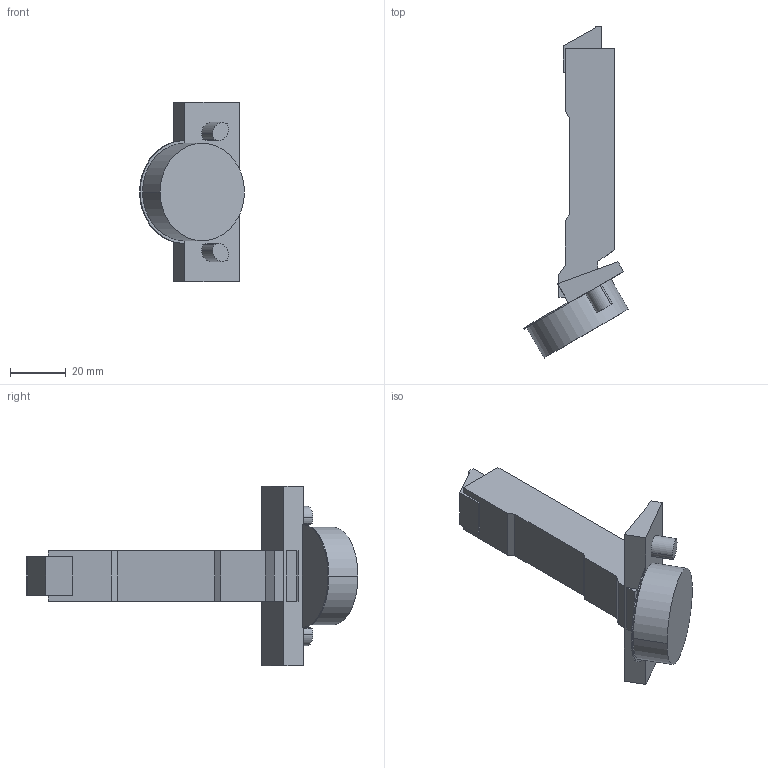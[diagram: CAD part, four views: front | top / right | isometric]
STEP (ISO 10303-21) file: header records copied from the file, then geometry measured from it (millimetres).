
FILE_DESCRIPTION (( 'STEP AP214' ), '1' );
FILE_NAME ('Scharnier TS Impresso 120°_-30° GB_BB, aufliegend - Neu -.step', '2019-09-17T09:44:46', ( '' ), ( '' ), 'SwSTEP 2.0', 'SolidWorks 2019', '' );
FILE_SCHEMA (( 'AUTOMOTIVE_DESIGN' ));
Length unit declared in the file: millimetre
Products named in the file (1): Scharnier TS Impresso 120°_-30° GB_BB, aufliegend - Neu -
Bounding box: 37.68 x 119.25 x 64.5 mm (x, y, z)
Volume: 47536.3 mm3; surface area: 13107.3 mm2
Topology: 1 solids, 1 shells, 55 faces, 135 edges, 90 vertices
Faces by surface type: plane 40, cylinder 15
Entity records: 1653 total; most frequent: CARTESIAN_POINT 281, DIRECTION 277, ORIENTED_EDGE 270, EDGE_CURVE 135, VECTOR 105, LINE 105, VERTEX_POINT 90, AXIS2_PLACEMENT_3D 86
